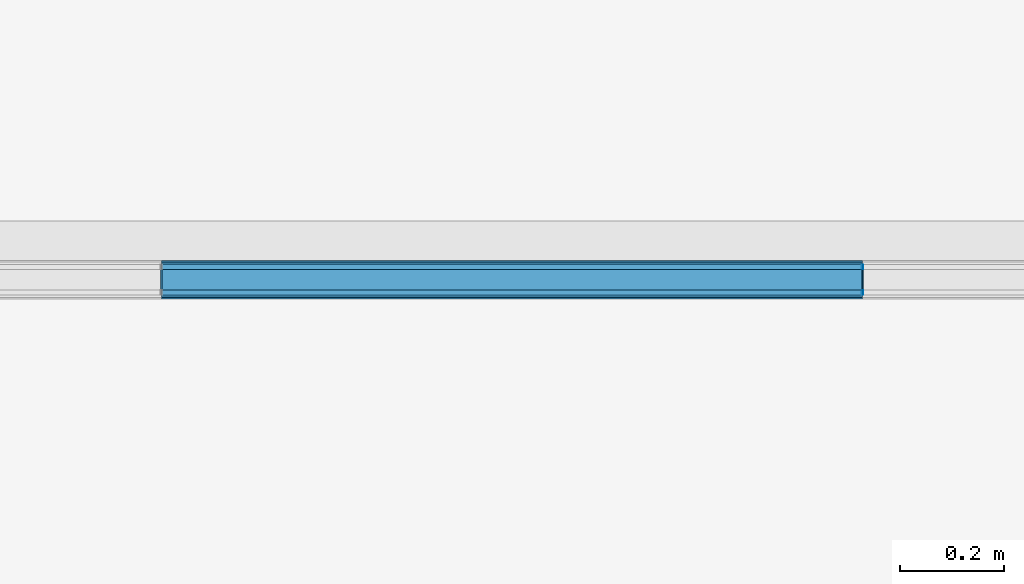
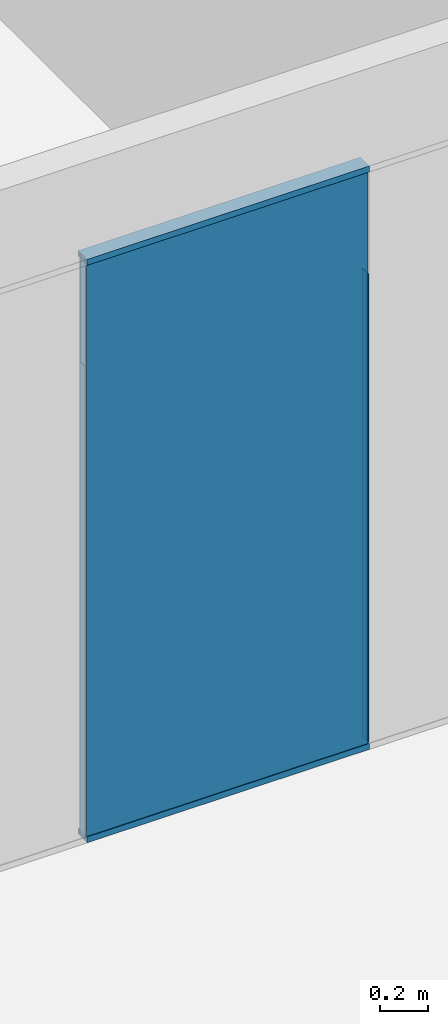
# One storey, part 25 of 89: 9 building element parts, 6 elements without a shape of their own.
"""IFC2X3 building model written with IfcOpenShell, lengths in millimetres."""

from ifc_helpers import new_model, entity, si_unit, converted_unit, derived_unit, money_unit, direction, frame, origin_with_axes, place, context, subcontext, project, spatial, faceted_brep, source, transform, mapped, material, type_object, element, aggregate, save


model = new_model("IFC2X3")

# Units and contexts
model_context = context("Model", 3, precision=0.01, world=origin_with_axes(), true_north=direction((0.0, 1.0)))
body_context = subcontext(model_context, "Body", "Model", "MODEL_VIEW")
ifc_project = project(units=[si_unit("LENGTHUNIT", "METRE", prefix="MILLI"), si_unit("AREAUNIT", "SQUARE_METRE"), si_unit("VOLUMEUNIT", "CUBIC_METRE"), converted_unit("PLANEANGLEUNIT", "DEGREE", entity("IfcPlaneAngleMeasure", 0.0174532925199), si_unit("PLANEANGLEUNIT", "RADIAN"), dimensions=[0, 0, 0, 0, 0, 0, 0]), si_unit("SOLIDANGLEUNIT", "STERADIAN"), money_unit("EUR"), converted_unit("TIMEUNIT", "Year", entity("IfcTimeMeasure", 31556926.0), si_unit("TIMEUNIT", "SECOND"), dimensions=[0, 0, 1, 0, 0, 0, 0]), si_unit("MASSUNIT", "GRAM", prefix="KILO"), si_unit("THERMODYNAMICTEMPERATUREUNIT", "DEGREE_CELSIUS"), si_unit("LUMINOUSINTENSITYUNIT", "LUMEN"), si_unit("ENERGYUNIT", "JOULE", prefix="MEGA"), derived_unit("THERMALCONDUCTANCEUNIT", [(si_unit("POWERUNIT", "WATT"), 1), (si_unit("LENGTHUNIT", "METRE"), -1), (si_unit("THERMODYNAMICTEMPERATUREUNIT", "KELVIN"), -1)]), derived_unit("SPECIFICHEATCAPACITYUNIT", [(si_unit("ENERGYUNIT", "JOULE"), 1), (si_unit("MASSUNIT", "GRAM", prefix="KILO"), -1), (si_unit("THERMODYNAMICTEMPERATUREUNIT", "KELVIN"), -1)]), derived_unit("MASSDENSITYUNIT", [(si_unit("MASSUNIT", "GRAM", prefix="KILO"), 1), (si_unit("VOLUMEUNIT", "CUBIC_METRE"), -1)])], contexts=[model_context])

# Site, building, storey
site_placement = place(None, origin_with_axes())
site = spatial("IfcSite", under=ifc_project, at=site_placement, Name="Puškini 31, Narva", CompositionType="ELEMENT")
building_placement = place(site_placement, origin_with_axes())
building = spatial("IfcBuilding", under=site, at=building_placement, Name="Narva Riigigümnaasium", CompositionType="ELEMENT")
storey_placement = place(building_placement, frame((0.0, 0.0, -3300.0), z_axis=(0.0, 0.0, 1.0), x_axis=(1.0, 0.0, 0.0)))
storey = spatial("IfcBuildingStorey", under=building, at=storey_placement, Name="1.korrus -3.3", CompositionType="ELEMENT", Elevation=-3300.0)

# Curtain wall, members, building element parts, plate
curtain_wall_type = type_object("IfcCurtainWallType", Name="Curtain Wall Type", PredefinedType="NOTDEFINED")
curtain_wall_placement = place(storey_placement, frame((40014.000008, 243997.000057, -9.155864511e-06), z_axis=(0.0, 0.0, 1.0), x_axis=(1.0, 0.0, 0.0)))
curtain_wall = element("IfcCurtainWall", 1, at=curtain_wall_placement, inside=storey, type_object=curtain_wall_type, Name="G-SKLF-09")
member_type_1 = type_object("IfcMemberType", Name="3 x 19", PredefinedType="MULLION")
member_1_placement = place(curtain_wall_placement, frame((6163.99999221, 0.0, 0.0), z_axis=(0.0, 0.0, 1.0), x_axis=(-1.0, 0.0, 0.0)))
member_1 = element("IfcMember", 2, at=member_1_placement, type_object=member_type_1, Name="G-SKLF-11-raam", ObjectType="MULLION")
ifc_material_1 = material(Name="Klaas")
shared_shape_1 = source(origin_with_axes(), body_context, "Body", "Brep", [
    faceted_brep([(-1.5000138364, 20.0064497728, 30.0000193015), (1.4999861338, 20.0064497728, 30.0000193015), (1.4999861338, 20.0064497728, 2400.00000716), (-1.5000138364, 20.0064497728, 2400.00000716), (-1.5000138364, 29.0064496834, 30.0000193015), (1.4999861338, 29.0064496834, 30.0000193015), (1.4999861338, 29.0064496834, 2400.00000716), (-1.5000138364, 29.0064496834, 2400.00000716)], [[[0, 1, 2, 3]], [[1, 0, 4, 5]], [[1, 5, 6, 2]], [[2, 6, 7, 3]], [[4, 0, 3, 7]], [[5, 4, 7, 6]]]),
    faceted_brep([(1.4999861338, -28.9935503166, 30.0000193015), (1.4999861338, -19.993550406, 30.0000193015), (1.4999861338, -19.993550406, 2400.00000716), (1.4999861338, -28.9935503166, 2400.00000716), (-1.5000138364, -28.9935503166, 30.0000193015), (-1.5000138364, -19.993550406, 30.0000193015), (-1.5000138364, -19.993550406, 2400.00000716), (-1.5000138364, -28.9935503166, 2400.00000716)], [[[0, 1, 2, 3]], [[1, 0, 4, 5]], [[1, 5, 6, 2]], [[2, 6, 7, 3]], [[4, 0, 3, 7]], [[5, 4, 7, 6]]]),
])
building_element_part_1_placement = place(member_1_placement, origin_with_axes())
building_element_part_1 = element("IfcBuildingElementPart", 3, at=building_element_part_1_placement, material=ifc_material_1, Name="Klaas", context=body_context, shape_type="MappedRepresentation", body=[
    mapped(shared_shape_1, transform((0.0, 0.0, 0.0), x_axis=(-1.0, 0.0, 0.0), y_axis=(0.0, -1.0, 0.0), z_axis=(0.0, 0.0, 1.0))),
])
member_2_placement = place(curtain_wall_placement, frame((4813.99999221, 0.0, 0.0), z_axis=(0.0, 0.0, 1.0), x_axis=(-1.0, 0.0, 0.0)))
member_2 = element("IfcMember", 4, at=member_2_placement, type_object=member_type_1, Name="G-SKLF-09-raam", ObjectType="MULLION")
ifc_material_2 = material(Name="VKR-06_Õhkvahe")
shared_shape_2 = source(origin_with_axes(), body_context, "Body", "Brep", [
    faceted_brep([(1.4999861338, -19.9935503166, 30.0000193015), (1.4999861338, 20.0064496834, 30.0000193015), (1.4999861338, 20.0064496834, 2400.00000716), (1.4999861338, -19.9935503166, 2400.00000716), (-1.5000138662, -19.9935503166, 30.0000193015), (-1.5000138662, 20.0064496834, 30.0000193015), (-1.5000138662, 20.0064496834, 2400.00000716), (-1.5000138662, -19.9935503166, 2400.00000716)], [[[0, 1, 2, 3]], [[1, 0, 4, 5]], [[1, 5, 6, 2]], [[2, 6, 7, 3]], [[4, 0, 3, 7]], [[5, 4, 7, 6]]]),
])
building_element_part_2_placement = place(member_2_placement, origin_with_axes())
building_element_part_2 = element("IfcBuildingElementPart", 5, at=building_element_part_2_placement, material=ifc_material_2, Name="VKR-06_Õhkvahe", context=body_context, shape_type="MappedRepresentation", body=[
    mapped(shared_shape_2, transform((0.0, 0.0, 0.0), x_axis=(-1.0, 0.0, 0.0), y_axis=(0.0, -1.0, 0.0), z_axis=(0.0, 0.0, 1.0))),
])
aggregate(member_2, [building_element_part_2])
building_element_part_3_placement = place(member_1_placement, origin_with_axes())
building_element_part_3 = element("IfcBuildingElementPart", 6, at=building_element_part_3_placement, material=ifc_material_2, Name="VKR-06_Õhkvahe", context=body_context, shape_type="MappedRepresentation", body=[
    mapped(shared_shape_2, transform((0.0, 0.0, 0.0), x_axis=(-1.0, 0.0, 0.0), y_axis=(0.0, -1.0, 0.0), z_axis=(0.0, 0.0, 1.0))),
])
aggregate(member_1, [building_element_part_1, building_element_part_3])
member_type_2 = type_object("IfcMemberType", Name="30 x -83", PredefinedType="MULLION")
member_3_placement = place(curtain_wall_placement, frame((4813.99999221, 0.0, 2950.00000716), z_axis=(1.0, 0.0, 0.0), x_axis=(0.0, 0.0, 1.0)))
member_3 = element("IfcMember", 7, at=member_3_placement, type_object=member_type_2, Name="G-SKLF-48-raam", ObjectType="MULLION")
ifc_material_3 = material(Name="Klaasvill")
shared_shape_3 = source(origin_with_axes(), body_context, "Body", "Brep", [
    faceted_brep([(7.49999990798, 20.000000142, 0.0), (13.8499999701, 20.000000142, 0.0), (13.8499999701, 20.000000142, 1350.0), (7.49999990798, 20.000000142, 1350.0), (7.49999990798, 34.0161444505, 0.0), (13.8499999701, 34.0161444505, 0.0), (13.8499999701, 34.0161444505, 1350.0), (7.49999990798, 34.0161444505, 1350.0)], [[[0, 1, 2, 3]], [[0, 4, 5, 1]], [[1, 5, 6, 2]], [[3, 2, 6, 7]], [[4, 0, 3, 7]], [[5, 4, 7, 6]]]),
    faceted_brep([(24.987414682, 34.0161444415, 0.0), (25.004489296, 32.0307503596, 0.0), (25.004489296, 32.0307503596, 1350.0), (24.987414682, 34.0161444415, 1350.0), (28.5126239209, 34.0161444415, 0.0), (28.7655837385, 33.0385325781, 0.0), (28.4955493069, 32.0307503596, 0.0), (27.75780152, 31.2930025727, 0.0), (26.7500193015, 31.0229681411, 0.0), (25.742237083, 31.2930025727, 0.0), (25.742237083, 31.2930025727, 1350.0), (26.7500193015, 31.0229681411, 1350.0), (27.75780152, 31.2930025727, 1350.0), (28.4955493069, 32.0307503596, 1350.0), (28.7655837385, 33.0385325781, 1350.0), (28.5126239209, 34.0161444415, 1350.0)], [[[0, 1, 2, 3]], [[0, 4, 5, 6, 7, 8, 9, 1]], [[1, 9, 10, 2]], [[3, 2, 10, 11, 12, 13, 14, 15]], [[4, 0, 3, 15]], [[5, 4, 15, 14]], [[6, 5, 14, 13]], [[7, 6, 13, 12]], [[8, 7, 12, 11]], [[9, 8, 11, 10]]]),
    faceted_brep([(7.49999990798, -19.9999997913, 0.0), (7.49999990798, -34.0161445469, 0.0), (7.49999990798, -34.0161445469, 1350.0), (7.49999990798, -19.9999997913, 1350.0), (13.8499999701, -19.9999997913, 0.0), (13.8499999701, -34.0161445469, 0.0), (13.8499999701, -34.0161445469, 1350.0), (13.8499999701, -19.9999997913, 1350.0)], [[[0, 1, 2, 3]], [[0, 4, 5, 1]], [[1, 5, 6, 2]], [[3, 2, 6, 7]], [[4, 0, 3, 7]], [[5, 4, 7, 6]]]),
    faceted_brep([(25.004489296, -32.0307503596, 0.0), (24.987414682, -34.0161444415, 0.0), (24.987414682, -34.0161444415, 1350.0), (25.004489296, -32.0307503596, 1350.0), (25.742237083, -31.2930025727, 0.0), (26.7500193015, -31.0229681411, 0.0), (27.75780152, -31.2930025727, 0.0), (28.4955493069, -32.0307503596, 0.0), (28.7655837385, -33.0385325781, 0.0), (28.5126239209, -34.0161444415, 0.0), (28.5126239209, -34.0161444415, 1350.0), (28.7655837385, -33.0385325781, 1350.0), (28.4955493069, -32.0307503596, 1350.0), (27.75780152, -31.2930025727, 1350.0), (26.7500193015, -31.0229681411, 1350.0), (25.742237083, -31.2930025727, 1350.0)], [[[0, 1, 2, 3]], [[0, 4, 5, 6, 7, 8, 9, 1]], [[1, 9, 10, 2]], [[3, 2, 10, 11, 12, 13, 14, 15]], [[4, 0, 3, 15]], [[5, 4, 15, 14]], [[6, 5, 14, 13]], [[7, 6, 13, 12]], [[8, 7, 12, 11]], [[9, 8, 11, 10]]]),
])
building_element_part_4_placement = place(member_3_placement, origin_with_axes())
building_element_part_4 = element("IfcBuildingElementPart", 8, at=building_element_part_4_placement, material=ifc_material_3, Name="Klaasvill", context=body_context, shape_type="MappedRepresentation", body=[
    mapped(shared_shape_3, transform((0.0, 0.0, 0.0), x_axis=(-1.0, 0.0, 0.0), y_axis=(0.0, -1.0, 0.0), z_axis=(0.0, 0.0, 1.0))),
])
ifc_material_4 = material(Name="Teras RAL7012")
shared_shape_4 = source(origin_with_axes(), body_context, "Body", "Brep", [
    faceted_brep([(0.0, -17.0000000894, 0.0), (29.5999996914, -17.0000000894, 0.0), (29.5999996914, -17.0000000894, 1350.0), (0.0, -17.0000000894, 1350.0), (0.0, 17.0000000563, 0.0), (29.5999996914, 17.0000000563, 0.0), (1.9999999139, 15.0000001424, 0.0), (1.9999999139, -15.0000001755, 0.0), (18.7999996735, -15.0000001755, 0.0), (18.7999996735, 15.0000001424, 0.0), (29.5999996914, 17.0000000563, 1350.0), (0.0, 17.0000000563, 1350.0), (1.9999999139, 15.0000001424, 1350.0), (18.7999996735, 15.0000001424, 1350.0), (18.7999996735, -15.0000001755, 1350.0), (1.9999999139, -15.0000001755, 1350.0)], [[[0, 1, 2, 3]], [[0, 4, 5, 1], [6, 7, 8, 9]], [[1, 5, 10, 2]], [[3, 2, 10, 11], [12, 13, 14, 15]], [[4, 0, 3, 11]], [[5, 4, 11, 10]], [[7, 6, 12, 15]], [[8, 7, 15, 14]], [[9, 8, 14, 13]], [[6, 9, 13, 12]]]),
    faceted_brep([(0.0, 17.0, 0.0), (29.5999996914, 17.0000000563, 0.0), (29.5999996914, 17.0000000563, 1350.0), (0.0, 17.0, 1350.0), (0.0, 37.0, 0.0), (30.0000193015, 37.0, 0.0), (30.0000193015, 34.0161444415, 0.0), (28.5126239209, 34.0161444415, 0.0), (24.987414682, 34.0161444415, 0.0), (13.8499999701, 34.0161444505, 0.0), (7.49999999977, 34.0161444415, 0.0), (7.49999999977, 20.0, 0.0), (13.8499999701, 20.000000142, 0.0), (30.0000193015, 20.0, 0.0), (30.0000193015, 17.0, 0.0), (30.0000193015, 17.0, 1350.0), (30.0000193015, 20.0, 1350.0), (13.8499999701, 20.000000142, 1350.0), (7.49999999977, 20.0, 1350.0), (7.49999999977, 34.0161444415, 1350.0), (13.8499999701, 34.0161444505, 1350.0), (24.987414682, 34.0161444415, 1350.0), (28.5126239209, 34.0161444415, 1350.0), (30.0000193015, 34.0161444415, 1350.0), (30.0000193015, 37.0, 1350.0), (0.0, 37.0, 1350.0)], [[[0, 1, 2, 3]], [[0, 4, 5, 6, 7, 8, 9, 10, 11, 12, 13, 14, 1]], [[1, 14, 15, 2]], [[3, 2, 15, 16, 17, 18, 19, 20, 21, 22, 23, 24, 25]], [[4, 0, 3, 25]], [[5, 4, 25, 24]], [[6, 5, 24, 23]], [[7, 6, 23, 22]], [[8, 7, 22, 21]], [[9, 8, 21, 20]], [[10, 9, 20, 19]], [[11, 10, 19, 18]], [[12, 11, 18, 17]], [[13, 12, 17, 16]], [[14, 13, 16, 15]]]),
    faceted_brep([(0.0, -17.0, 0.0), (0.0, -37.0, 0.0), (0.0, -37.0, 1350.0), (0.0, -17.0, 1350.0), (29.5999996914, -17.0000000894, 0.0), (30.0000193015, -17.0, 0.0), (30.0000193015, -20.0, 0.0), (13.8499999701, -19.9999997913, 0.0), (7.49999999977, -20.0, 0.0), (7.49999999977, -34.0161444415, 0.0), (13.8499999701, -34.0161445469, 0.0), (24.987414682, -34.0161444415, 0.0), (28.5126239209, -34.0161444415, 0.0), (30.0000193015, -34.0161444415, 0.0), (30.0000193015, -37.0, 0.0), (30.0000193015, -37.0, 1350.0), (30.0000193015, -34.0161444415, 1350.0), (28.5126239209, -34.0161444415, 1350.0), (24.987414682, -34.0161444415, 1350.0), (13.8499999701, -34.0161445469, 1350.0), (7.49999999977, -34.0161444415, 1350.0), (7.49999999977, -20.0, 1350.0), (13.8499999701, -19.9999997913, 1350.0), (30.0000193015, -20.0, 1350.0), (30.0000193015, -17.0, 1350.0), (29.5999996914, -17.0000000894, 1350.0)], [[[0, 1, 2, 3]], [[0, 4, 5, 6, 7, 8, 9, 10, 11, 12, 13, 14, 1]], [[1, 14, 15, 2]], [[3, 2, 15, 16, 17, 18, 19, 20, 21, 22, 23, 24, 25]], [[4, 0, 3, 25]], [[5, 4, 25, 24]], [[6, 5, 24, 23]], [[7, 6, 23, 22]], [[8, 7, 22, 21]], [[9, 8, 21, 20]], [[10, 9, 20, 19]], [[11, 10, 19, 18]], [[12, 11, 18, 17]], [[13, 12, 17, 16]], [[14, 13, 16, 15]]]),
])
building_element_part_5_placement = place(member_3_placement, origin_with_axes())
building_element_part_5 = element("IfcBuildingElementPart", 9, at=building_element_part_5_placement, material=ifc_material_4, Name="Teras RAL7012", context=body_context, shape_type="MappedRepresentation", body=[
    mapped(shared_shape_4, transform((0.0, 0.0, 0.0), x_axis=(-1.0, 0.0, 0.0), y_axis=(0.0, -1.0, 0.0), z_axis=(0.0, 0.0, 1.0))),
])
aggregate(member_3, [building_element_part_4, building_element_part_5])
member_4_placement = place(curtain_wall_placement, frame((4813.99999221, 0.0, 0.0), z_axis=(1.0, 0.0, 0.0), x_axis=(0.0, 0.0, 1.0)))
member_4 = element("IfcMember", 10, at=member_4_placement, type_object=member_type_2, Name="G-SKLF-43-raam", ObjectType="MULLION")
shared_shape_5 = source(origin_with_axes(), body_context, "Body", "Brep", [
    faceted_brep([(-7.49999990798, 20.000000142, 0.0), (-7.49999990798, 20.000000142, 1350.0), (-13.8499999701, 20.000000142, 1350.0), (-13.8499999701, 20.000000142, 0.0), (-7.49999990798, 34.0161444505, 0.0), (-7.49999990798, 34.0161444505, 1350.0), (-13.8499999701, 34.0161444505, 1350.0), (-13.8499999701, 34.0161444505, 0.0)], [[[0, 1, 2, 3]], [[4, 5, 1, 0]], [[1, 5, 6, 2]], [[3, 2, 6, 7]], [[0, 3, 7, 4]], [[7, 6, 5, 4]]]),
    faceted_brep([(-24.987414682, 34.0161444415, 0.0), (-24.987414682, 34.0161444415, 1350.0), (-25.004489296, 32.0307503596, 1350.0), (-25.004489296, 32.0307503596, 0.0), (-28.5126239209, 34.0161444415, 0.0), (-28.5126239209, 34.0161444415, 1350.0), (-28.7655837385, 33.0385325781, 1350.0), (-28.4955493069, 32.0307503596, 1350.0), (-27.75780152, 31.2930025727, 1350.0), (-26.7500193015, 31.0229681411, 1350.0), (-25.742237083, 31.2930025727, 1350.0), (-25.742237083, 31.2930025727, 0.0), (-26.7500193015, 31.0229681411, 0.0), (-27.75780152, 31.2930025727, 0.0), (-28.4955493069, 32.0307503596, 0.0), (-28.7655837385, 33.0385325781, 0.0)], [[[0, 1, 2, 3]], [[4, 5, 1, 0]], [[1, 5, 6, 7, 8, 9, 10, 2]], [[3, 2, 10, 11]], [[0, 3, 11, 12, 13, 14, 15, 4]], [[15, 6, 5, 4]], [[14, 7, 6, 15]], [[13, 8, 7, 14]], [[12, 9, 8, 13]], [[11, 10, 9, 12]]]),
    faceted_brep([(-7.49999990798, -19.9999997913, 0.0), (-7.49999990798, -19.9999997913, 1350.0), (-7.49999990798, -34.0161445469, 1350.0), (-7.49999990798, -34.0161445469, 0.0), (-13.8499999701, -19.9999997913, 0.0), (-13.8499999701, -19.9999997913, 1350.0), (-13.8499999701, -34.0161445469, 1350.0), (-13.8499999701, -34.0161445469, 0.0)], [[[0, 1, 2, 3]], [[4, 5, 1, 0]], [[1, 5, 6, 2]], [[3, 2, 6, 7]], [[0, 3, 7, 4]], [[7, 6, 5, 4]]]),
    faceted_brep([(-25.004489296, -32.0307503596, 0.0), (-25.004489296, -32.0307503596, 1350.0), (-24.987414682, -34.0161444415, 1350.0), (-24.987414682, -34.0161444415, 0.0), (-25.742237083, -31.2930025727, 0.0), (-25.742237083, -31.2930025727, 1350.0), (-26.7500193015, -31.0229681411, 1350.0), (-27.75780152, -31.2930025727, 1350.0), (-28.4955493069, -32.0307503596, 1350.0), (-28.7655837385, -33.0385325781, 1350.0), (-28.5126239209, -34.0161444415, 1350.0), (-28.5126239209, -34.0161444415, 0.0), (-28.7655837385, -33.0385325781, 0.0), (-28.4955493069, -32.0307503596, 0.0), (-27.75780152, -31.2930025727, 0.0), (-26.7500193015, -31.0229681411, 0.0)], [[[0, 1, 2, 3]], [[4, 5, 1, 0]], [[1, 5, 6, 7, 8, 9, 10, 2]], [[3, 2, 10, 11]], [[0, 3, 11, 12, 13, 14, 15, 4]], [[15, 6, 5, 4]], [[14, 7, 6, 15]], [[13, 8, 7, 14]], [[12, 9, 8, 13]], [[11, 10, 9, 12]]]),
])
building_element_part_6_placement = place(member_4_placement, origin_with_axes())
building_element_part_6 = element("IfcBuildingElementPart", 11, at=building_element_part_6_placement, material=ifc_material_3, Name="Klaasvill", context=body_context, shape_type="MappedRepresentation", body=[
    mapped(shared_shape_5, transform((0.0, 0.0, 0.0), x_axis=(-1.0, 0.0, 0.0), y_axis=(0.0, -1.0, 0.0), z_axis=(0.0, 0.0, 1.0))),
])
shared_shape_6 = source(origin_with_axes(), body_context, "Body", "Brep", [
    faceted_brep([(0.0, -17.0000000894, 0.0), (0.0, -17.0000000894, 1350.0), (-29.5999996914, -17.0000000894, 1350.0), (-29.5999996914, -17.0000000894, 0.0), (0.0, 17.0000000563, 0.0), (0.0, 17.0000000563, 1350.0), (-29.5999996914, 17.0000000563, 1350.0), (-1.9999999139, 15.0000001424, 1350.0), (-1.9999999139, -15.0000001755, 1350.0), (-18.7999996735, -15.0000001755, 1350.0), (-18.7999996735, 15.0000001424, 1350.0), (-29.5999996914, 17.0000000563, 0.0), (-1.9999999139, 15.0000001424, 0.0), (-18.7999996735, 15.0000001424, 0.0), (-18.7999996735, -15.0000001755, 0.0), (-1.9999999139, -15.0000001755, 0.0)], [[[0, 1, 2, 3]], [[4, 5, 1, 0]], [[1, 5, 6, 2], [7, 8, 9, 10]], [[3, 2, 6, 11]], [[0, 3, 11, 4], [12, 13, 14, 15]], [[11, 6, 5, 4]], [[15, 8, 7, 12]], [[14, 9, 8, 15]], [[13, 10, 9, 14]], [[12, 7, 10, 13]]]),
    faceted_brep([(0.0, 17.0, 0.0), (0.0, 17.0, 1350.0), (-29.5999996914, 17.0000000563, 1350.0), (-29.5999996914, 17.0000000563, 0.0), (0.0, 37.0, 0.0), (0.0, 37.0, 1350.0), (-30.0000193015, 37.0, 1350.0), (-30.0000193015, 34.0161444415, 1350.0), (-28.5126239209, 34.0161444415, 1350.0), (-24.987414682, 34.0161444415, 1350.0), (-13.8499999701, 34.0161444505, 1350.0), (-7.49999999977, 34.0161444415, 1350.0), (-7.49999999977, 20.0, 1350.0), (-13.8499999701, 20.000000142, 1350.0), (-30.0000193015, 20.0, 1350.0), (-30.0000193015, 17.0, 1350.0), (-30.0000193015, 17.0, 0.0), (-30.0000193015, 20.0, 0.0), (-13.8499999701, 20.000000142, 0.0), (-7.49999999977, 20.0, 0.0), (-7.49999999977, 34.0161444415, 0.0), (-13.8499999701, 34.0161444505, 0.0), (-24.987414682, 34.0161444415, 0.0), (-28.5126239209, 34.0161444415, 0.0), (-30.0000193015, 34.0161444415, 0.0), (-30.0000193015, 37.0, 0.0)], [[[0, 1, 2, 3]], [[4, 5, 1, 0]], [[1, 5, 6, 7, 8, 9, 10, 11, 12, 13, 14, 15, 2]], [[3, 2, 15, 16]], [[0, 3, 16, 17, 18, 19, 20, 21, 22, 23, 24, 25, 4]], [[25, 6, 5, 4]], [[24, 7, 6, 25]], [[23, 8, 7, 24]], [[22, 9, 8, 23]], [[21, 10, 9, 22]], [[20, 11, 10, 21]], [[19, 12, 11, 20]], [[18, 13, 12, 19]], [[17, 14, 13, 18]], [[16, 15, 14, 17]]]),
    faceted_brep([(0.0, -17.0, 0.0), (0.0, -17.0, 1350.0), (0.0, -37.0, 1350.0), (0.0, -37.0, 0.0), (-29.5999996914, -17.0000000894, 0.0), (-29.5999996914, -17.0000000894, 1350.0), (-30.0000193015, -17.0, 1350.0), (-30.0000193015, -20.0, 1350.0), (-13.8499999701, -19.9999997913, 1350.0), (-7.49999999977, -20.0, 1350.0), (-7.49999999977, -34.0161444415, 1350.0), (-13.8499999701, -34.0161445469, 1350.0), (-24.987414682, -34.0161444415, 1350.0), (-28.5126239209, -34.0161444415, 1350.0), (-30.0000193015, -34.0161444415, 1350.0), (-30.0000193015, -37.0, 1350.0), (-30.0000193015, -37.0, 0.0), (-30.0000193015, -34.0161444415, 0.0), (-28.5126239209, -34.0161444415, 0.0), (-24.987414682, -34.0161444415, 0.0), (-13.8499999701, -34.0161445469, 0.0), (-7.49999999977, -34.0161444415, 0.0), (-7.49999999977, -20.0, 0.0), (-13.8499999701, -19.9999997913, 0.0), (-30.0000193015, -20.0, 0.0), (-30.0000193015, -17.0, 0.0)], [[[0, 1, 2, 3]], [[4, 5, 1, 0]], [[1, 5, 6, 7, 8, 9, 10, 11, 12, 13, 14, 15, 2]], [[3, 2, 15, 16]], [[0, 3, 16, 17, 18, 19, 20, 21, 22, 23, 24, 25, 4]], [[25, 6, 5, 4]], [[24, 7, 6, 25]], [[23, 8, 7, 24]], [[22, 9, 8, 23]], [[21, 10, 9, 22]], [[20, 11, 10, 21]], [[19, 12, 11, 20]], [[18, 13, 12, 19]], [[17, 14, 13, 18]], [[16, 15, 14, 17]]]),
])
building_element_part_7_placement = place(member_4_placement, origin_with_axes())
building_element_part_7 = element("IfcBuildingElementPart", 12, at=building_element_part_7_placement, material=ifc_material_4, Name="Teras RAL7012", context=body_context, shape_type="MappedRepresentation", body=[
    mapped(shared_shape_6, transform((0.0, 0.0, 0.0), x_axis=(-1.0, 0.0, 0.0), y_axis=(0.0, -1.0, 0.0), z_axis=(0.0, 0.0, 1.0))),
])
aggregate(member_4, [building_element_part_6, building_element_part_7])
plate_type = type_object("IfcPlateType", Name="Siseklaasfassaad - Klaas 1347 x 535 x 10", PredefinedType="CURTAIN_PANEL")
plate_placement = place(curtain_wall_placement, frame((5488.99999221, 0.0, 1783.33333811), z_axis=(0.0, 0.0, 1.0), x_axis=(-1.0, 0.0, 0.0)))
plate = element("IfcPlate", 13, at=plate_placement, type_object=plate_type, Name="G-SKLF-10-klaas", ObjectType="CURTAIN_PANEL")
aggregate(curtain_wall, [member_2, member_1, member_4, member_3, plate])
ifc_material_5 = material(Name="VKR-05_Klaas")
shared_shape_7 = source(origin_with_axes(), body_context, "Body", "Brep", [
    faceted_brep([(-1348.50001817, 2935.00001532, -29.0), (-1348.50001817, 2935.00001532, -20.0), (-1.49999478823, 2935.00001532, -20.0), (-1.49999478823, 2935.00001532, -29.0), (-1348.50001817, 14.9999918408, -29.0), (-1348.50001817, 14.9999918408, -20.0), (-1.49999478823, 14.9999918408, -20.0), (-1.49999478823, 14.9999918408, -29.0)], [[[0, 1, 2, 3]], [[4, 5, 1, 0]], [[1, 5, 6, 2]], [[3, 2, 6, 7]], [[0, 3, 7, 4]], [[7, 6, 5, 4]]]),
    faceted_brep([(-1348.50001817, 2935.00001532, 20.0), (-1348.50001817, 2935.00001532, 29.0), (-1.49999478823, 2935.00001532, 29.0), (-1.49999478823, 2935.00001532, 20.0), (-1348.50001817, 14.9999918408, 20.0), (-1348.50001817, 14.9999918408, 29.0), (-1.49999478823, 14.9999918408, 29.0), (-1.49999478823, 14.9999918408, 20.0)], [[[0, 1, 2, 3]], [[4, 5, 1, 0]], [[1, 5, 6, 2]], [[3, 2, 6, 7]], [[0, 3, 7, 4]], [[7, 6, 5, 4]]]),
])
building_element_part_8_placement = place(plate_placement, origin_with_axes())
building_element_part_8 = element("IfcBuildingElementPart", 14, at=building_element_part_8_placement, material=ifc_material_5, Name="VKR-05_Klaas", context=body_context, shape_type="MappedRepresentation", body=[
    mapped(shared_shape_7, transform((675.0, 0.0, -1783.33333811), x_axis=(1.0, 0.0, 0.0), y_axis=(0.0, 0.0, 1.0), z_axis=(0.0, -1.0, 0.0))),
])
shared_shape_8 = source(origin_with_axes(), body_context, "Body", "Brep", [
    faceted_brep([(-1348.50001817, 2935.00001532, -20.0), (-1348.50001817, 2935.00001532, 20.0), (-1.49999478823, 2935.00001532, 20.0), (-1.49999478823, 2935.00001532, -20.0), (-1348.50001817, 14.9999918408, -20.0), (-1348.50001817, 14.9999918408, 20.0), (-1.49999478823, 14.9999918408, 20.0), (-1.49999478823, 14.9999918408, -20.0)], [[[0, 1, 2, 3]], [[4, 5, 1, 0]], [[1, 5, 6, 2]], [[3, 2, 6, 7]], [[0, 3, 7, 4]], [[7, 6, 5, 4]]]),
])
building_element_part_9_placement = place(plate_placement, origin_with_axes())
building_element_part_9 = element("IfcBuildingElementPart", 15, at=building_element_part_9_placement, material=ifc_material_2, Name="VKR-06_Õhkvahe", context=body_context, shape_type="MappedRepresentation", body=[
    mapped(shared_shape_8, transform((675.0, 0.0, -1783.33333811), x_axis=(1.0, 0.0, 0.0), y_axis=(0.0, 0.0, 1.0), z_axis=(0.0, -1.0, 0.0))),
])
aggregate(plate, [building_element_part_8, building_element_part_9])

save(model, "model.ifc")
